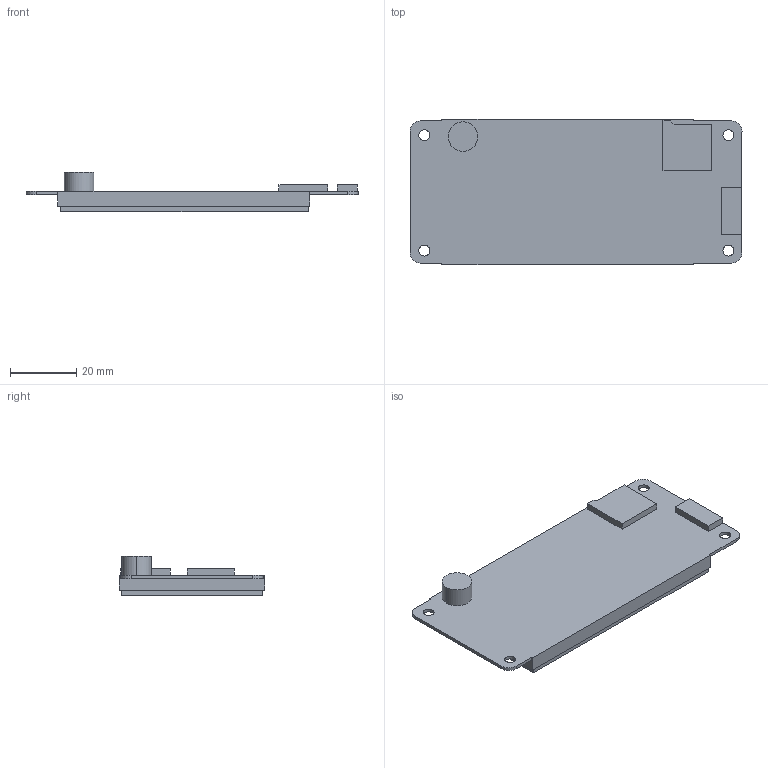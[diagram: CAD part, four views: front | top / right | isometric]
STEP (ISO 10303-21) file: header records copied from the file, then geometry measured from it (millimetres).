
FILE_DESCRIPTION((''),'2;1');
FILE_NAME('DMG64360T030-01WTC','2021-10-27T',('Administrator'),(''),'PRO/ENGINEER BY PARAMETRIC TECHNOLOGY CORPORATION, 2008380','PRO/ENGINEER BY PARAMETRIC TECHNOLOGY CORPORATION, 2008380','');
FILE_SCHEMA(('CONFIG_CONTROL_DESIGN'));
Length unit declared in the file: millimetre
Products named in the file (1): DMG64360T030-01WTC
Bounding box: 100 x 43.8 x 12 mm (x, y, z)
Volume: 22297.8 mm3; surface area: 10547.9 mm2
Topology: 1 solids, 1 shells, 46 faces, 8330 edges, 13908 vertices
Faces by surface type: plane 32, cylinder 14
Entity records: 45144 total; most frequent: DIRECTION 11066, CARTESIAN_POINT 8457, TRIMMED_CURVE 8210, VECTOR 5688, LINE 5688, AXIS2_PLACEMENT_3D 2689, CIRCLE 2642, ORIENTED_EDGE 240
